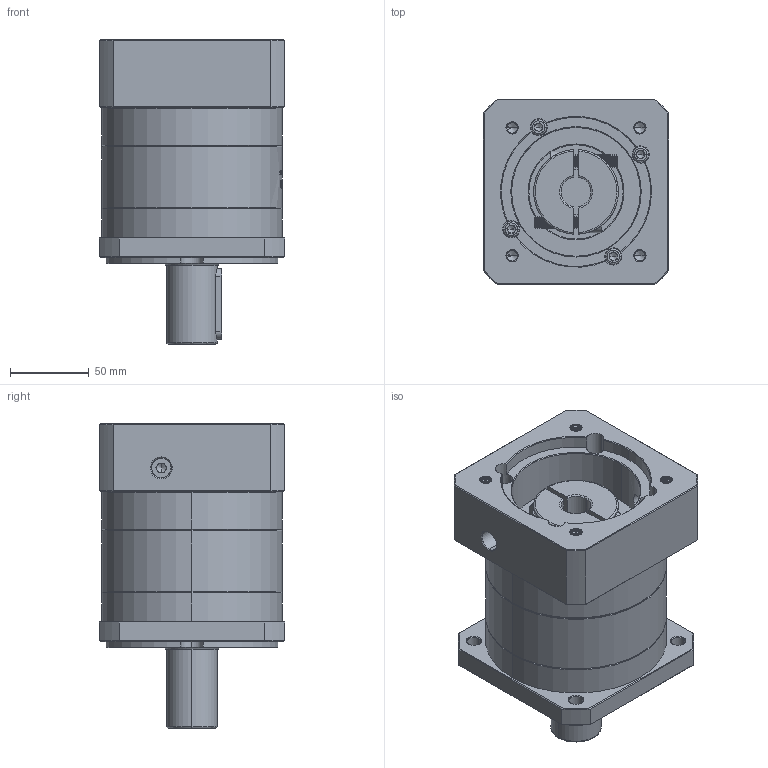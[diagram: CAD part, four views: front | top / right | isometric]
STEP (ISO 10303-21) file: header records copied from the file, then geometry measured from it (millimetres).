
FILE_DESCRIPTION (( 'STEP AP214' ), '1' );
FILE_NAME ('ZF120A-D32-L1-19-95-115-M8.step', '2023-03-07T09:32:10', ( '' ), ( '' ), 'SwSTEP 2.0', 'SolidWorks 2016', '' );
FILE_SCHEMA (( 'AUTOMOTIVE_DESIGN' ));
Length unit declared in the file: millimetre
Products named in the file (1): ZF120A-D32-L1-19-95-115-M8
Bounding box: 118 x 118 x 193.5 mm (x, y, z)
Volume: 1478923.9 mm3; surface area: 166530.9 mm2
Topology: 6 solids, 6 shells, 1967 faces, 5181 edges, 3308 vertices
Faces by surface type: plane 857, cylinder 429, bspline 341, cone 340
Entity records: 108149 total; most frequent: CARTESIAN_POINT 41767, ORIENTED_EDGE 10302, DIRECTION 7984, EDGE_CURVE 5151, VERTEX_POINT 3308, VECTOR 2758, LINE 2758, AXIS2_PLACEMENT_3D 2613
